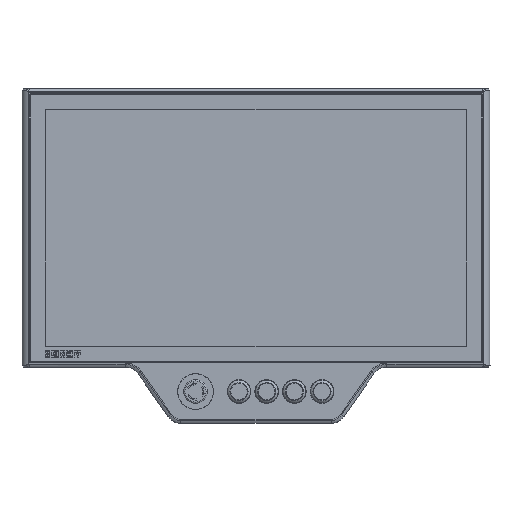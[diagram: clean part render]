
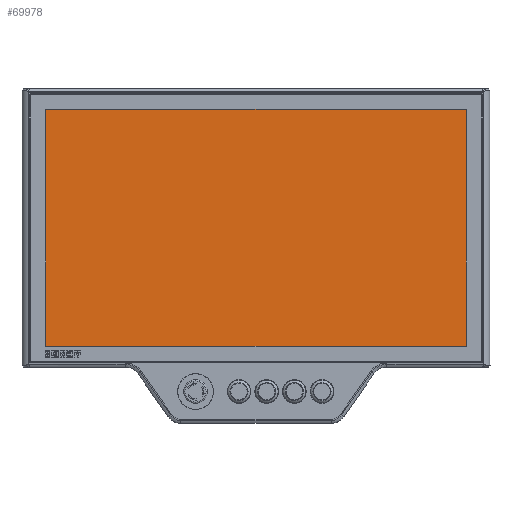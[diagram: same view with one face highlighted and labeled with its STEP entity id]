
A CAD part, top view. The second image highlights one B-rep face of the part: STEP entity #69978.
In plain terms, the highlighted planar face has unit normal (0, 0, 1).
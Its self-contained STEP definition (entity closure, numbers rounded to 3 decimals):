
#4264=PLANE('',#75507);
#9466=LINE('',#131700,#14610);
#9467=LINE('',#131702,#14611);
#9468=LINE('',#131704,#14612);
#9469=LINE('',#131705,#14613);
#14610=VECTOR('',#88910,10.);
#14611=VECTOR('',#88911,10.);
#14612=VECTOR('',#88912,10.);
#14613=VECTOR('',#88913,10.);
#19000=FACE_OUTER_BOUND('',#23168,.T.);
#23168=EDGE_LOOP('',(#57181,#57182,#57183,#57184));
#31862=VERTEX_POINT('',#131698);
#31863=VERTEX_POINT('',#131699);
#31864=VERTEX_POINT('',#131701);
#31865=VERTEX_POINT('',#131703);
#40672=EDGE_CURVE('',#31862,#31863,#9466,.T.);
#40673=EDGE_CURVE('',#31863,#31864,#9467,.T.);
#40674=EDGE_CURVE('',#31864,#31865,#9468,.T.);
#40675=EDGE_CURVE('',#31865,#31862,#9469,.T.);
#57181=ORIENTED_EDGE('',*,*,#40672,.T.);
#57182=ORIENTED_EDGE('',*,*,#40673,.T.);
#57183=ORIENTED_EDGE('',*,*,#40674,.T.);
#57184=ORIENTED_EDGE('',*,*,#40675,.T.);
#69978=ADVANCED_FACE('',(#19000),#4264,.T.);
#75507=AXIS2_PLACEMENT_3D('',#131697,#88908,#88909);
#88908=DIRECTION('center_axis',(0.,0.,
1.));
#88909=DIRECTION('ref_axis',(1.,0.,0.));
#88910=DIRECTION('',(0.,1.,0.));
#88911=DIRECTION('',(-1.,0.,0.));
#88912=DIRECTION('',(0.,-1.,0.));
#88913=DIRECTION('',(1.,0.,0.));
#131697=CARTESIAN_POINT('Origin',(0.,0.,
0.8));
#131698=CARTESIAN_POINT('',(266.1,-149.9,0.8));
#131699=CARTESIAN_POINT('',(266.1,149.9,0.8));
#131700=CARTESIAN_POINT('',(266.1,74.95,0.8));
#131701=CARTESIAN_POINT('',(-266.1,149.9,0.8));
#131702=CARTESIAN_POINT('',(-133.05,149.9,0.8));
#131703=CARTESIAN_POINT('',(-266.1,-149.9,0.8));
#131704=CARTESIAN_POINT('',(-266.1,-74.95,0.8));
#131705=CARTESIAN_POINT('',(133.05,-149.9,0.8));
